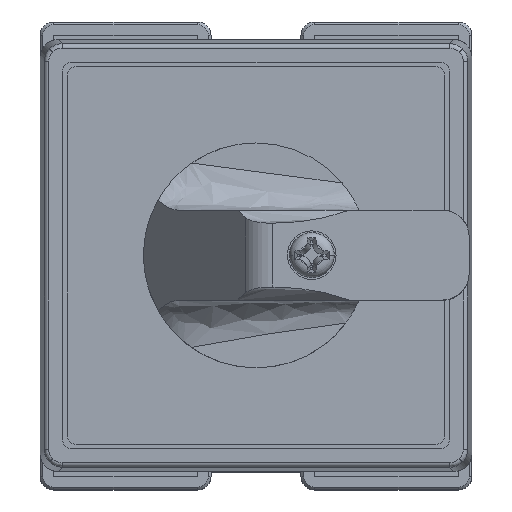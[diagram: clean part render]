
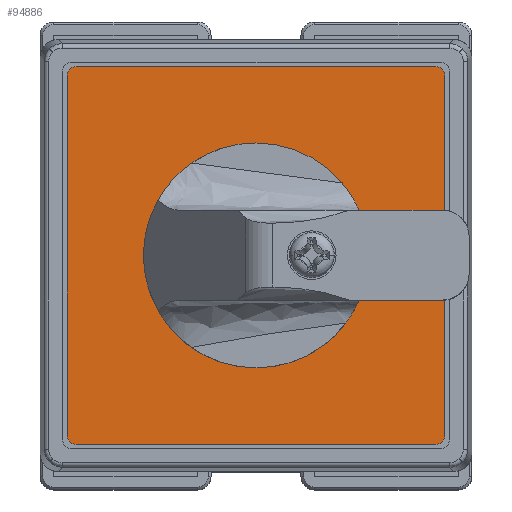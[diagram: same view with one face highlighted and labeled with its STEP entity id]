
A CAD part, top view. The second image highlights one B-rep face of the part: STEP entity #94886.
In plain terms, the highlighted planar face has unit normal (0, 0, 1).
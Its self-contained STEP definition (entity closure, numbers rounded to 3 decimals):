
#1016 = VECTOR ( 'NONE', #16464, 1000. ) ;
#1327 = CARTESIAN_POINT ( 'NONE',  ( -13.639, 15.889, -108.982 ) ) ;
#1666 = VERTEX_POINT ( 'NONE', #151547 ) ;
#4493 = DIRECTION ( 'NONE',  ( 0., -1., 0. ) ) ;
#6051 = CIRCLE ( 'NONE', #56187, 10.35 ) ;
#8085 = LINE ( 'NONE', #1327, #1016 ) ;
#10207 = VERTEX_POINT ( 'NONE', #172992 ) ;
#16464 = DIRECTION ( 'NONE',  ( -1., 0., 0. ) ) ;
#19048 = CARTESIAN_POINT ( 'NONE',  ( -13.639, -26.111, -108.982 ) ) ;
#20705 = CARTESIAN_POINT ( 'NONE',  ( 26.361, -26.111, -108.982 ) ) ;
#22418 = VECTOR ( 'NONE', #99753, 1000. ) ;
#22517 = VECTOR ( 'NONE', #94735, 1000. ) ;
#24826 = ORIENTED_EDGE ( 'NONE', *, *, #66518, .F. ) ;
#25053 = CIRCLE ( 'NONE', #60503, 1. ) ;
#26190 = DIRECTION ( 'NONE',  ( 0., 0., 1. ) ) ;
#32578 = ORIENTED_EDGE ( 'NONE', *, *, #65778, .F. ) ;
#32940 = EDGE_CURVE ( 'NONE', #175606, #43922, #25053, .T. ) ;
#34487 = DIRECTION ( 'NONE',  ( 0., 0., 1. ) ) ;
#37334 = AXIS2_PLACEMENT_3D ( 'NONE', #75123, #59558, #103265 ) ;
#37784 = DIRECTION ( 'NONE',  ( 0., 0., 1. ) ) ;
#39053 = CARTESIAN_POINT ( 'NONE',  ( 26.361, -25.111, -108.982 ) ) ;
#41524 = CARTESIAN_POINT ( 'NONE',  ( 6.361, 5.239, -108.982 ) ) ;
#43922 = VERTEX_POINT ( 'NONE', #171850 ) ;
#44085 = CIRCLE ( 'NONE', #122165, 1. ) ;
#48999 = VECTOR ( 'NONE', #108540, 1000. ) ;
#49535 = DIRECTION ( 'NONE',  ( 0., 0., 1. ) ) ;
#50370 = DIRECTION ( 'NONE',  ( 0., 0., 1. ) ) ;
#51212 = EDGE_CURVE ( 'NONE', #43922, #1666, #188518, .T. ) ;
#51636 = CIRCLE ( 'NONE', #127275, 1. ) ;
#56187 = AXIS2_PLACEMENT_3D ( 'NONE', #182250, #49535, #92456 ) ;
#59558 = DIRECTION ( 'NONE',  ( 0., 0., 1. ) ) ;
#60260 = CARTESIAN_POINT ( 'NONE',  ( 6.361, -15.461, -108.982 ) ) ;
#60503 = AXIS2_PLACEMENT_3D ( 'NONE', #39053, #37784, #158067 ) ;
#62512 = ORIENTED_EDGE ( 'NONE', *, *, #188222, .T. ) ;
#63052 = AXIS2_PLACEMENT_3D ( 'NONE', #132171, #163539, #162282 ) ;
#63888 = DIRECTION ( 'NONE',  ( 0., 1., 0. ) ) ;
#65778 = EDGE_CURVE ( 'NONE', #86372, #69013, #95393, .T. ) ;
#66499 = FACE_BOUND ( 'NONE', #97667, .T. ) ;
#66518 = EDGE_CURVE ( 'NONE', #69013, #86372, #6051, .T. ) ;
#69013 = VERTEX_POINT ( 'NONE', #60260 ) ;
#73846 = CARTESIAN_POINT ( 'NONE',  ( 26.361, 15.889, -108.982 ) ) ;
#75123 = CARTESIAN_POINT ( 'NONE',  ( 6.361, -5.111, -108.982 ) ) ;
#77194 = CIRCLE ( 'NONE', #124325, 1. ) ;
#84923 = CARTESIAN_POINT ( 'NONE',  ( 26.361, 14.889, -108.982 ) ) ;
#86372 = VERTEX_POINT ( 'NONE', #41524 ) ;
#86551 = ORIENTED_EDGE ( 'NONE', *, *, #144331, .T. ) ;
#92456 = DIRECTION ( 'NONE',  ( 0., 1., 0. ) ) ;
#92610 = EDGE_CURVE ( 'NONE', #10207, #96925, #77194, .T. ) ;
#94735 = DIRECTION ( 'NONE',  ( 0., -1., 0. ) ) ;
#94886 = ADVANCED_FACE ( 'NONE', ( #129665, #66499 ), #147944, .T. ) ;
#95393 = CIRCLE ( 'NONE', #37334, 10.35 ) ;
#96925 = VERTEX_POINT ( 'NONE', #169461 ) ;
#97667 = EDGE_LOOP ( 'NONE', ( #24826, #32578 ) ) ;
#99753 = DIRECTION ( 'NONE',  ( 0., 1., 0. ) ) ;
#101921 = DIRECTION ( 'NONE',  ( 0., -1., 0. ) ) ;
#103265 = DIRECTION ( 'NONE',  ( 0., 1., 0. ) ) ;
#104949 = LINE ( 'NONE', #19048, #48999 ) ;
#108540 = DIRECTION ( 'NONE',  ( 1., 0., 0. ) ) ;
#113683 = LINE ( 'NONE', #187049, #22517 ) ;
#121199 = CARTESIAN_POINT ( 'NONE',  ( -13.639, -26.111, -108.982 ) ) ;
#122165 = AXIS2_PLACEMENT_3D ( 'NONE', #84923, #26190, #101921 ) ;
#124325 = AXIS2_PLACEMENT_3D ( 'NONE', #124666, #34487, #63888 ) ;
#124666 = CARTESIAN_POINT ( 'NONE',  ( -13.639, 14.889, -108.982 ) ) ;
#127275 = AXIS2_PLACEMENT_3D ( 'NONE', #153678, #50370, #4493 ) ;
#129665 = FACE_OUTER_BOUND ( 'NONE', #142722, .T. ) ;
#131310 = VERTEX_POINT ( 'NONE', #73846 ) ;
#132171 = CARTESIAN_POINT ( 'NONE',  ( -13.639, 14.889, -108.982 ) ) ;
#138115 = ORIENTED_EDGE ( 'NONE', *, *, #191471, .T. ) ;
#142722 = EDGE_LOOP ( 'NONE', ( #162760, #180956, #86551, #184768, #164549, #145817, #138115, #62512 ) ) ;
#143553 = CARTESIAN_POINT ( 'NONE',  ( -14.639, -25.111, -108.982 ) ) ;
#144331 = EDGE_CURVE ( 'NONE', #192693, #156551, #51636, .T. ) ;
#145817 = ORIENTED_EDGE ( 'NONE', *, *, #51212, .T. ) ;
#147944 = PLANE ( 'NONE',  #63052 ) ;
#151547 = CARTESIAN_POINT ( 'NONE',  ( 27.361, 14.889, -108.982 ) ) ;
#153678 = CARTESIAN_POINT ( 'NONE',  ( -13.639, -25.111, -108.982 ) ) ;
#156551 = VERTEX_POINT ( 'NONE', #121199 ) ;
#158067 = DIRECTION ( 'NONE',  ( 0., -1., 0. ) ) ;
#160359 = EDGE_CURVE ( 'NONE', #96925, #192693, #113683, .T. ) ;
#162282 = DIRECTION ( 'NONE',  ( 0., 1., 0. ) ) ;
#162760 = ORIENTED_EDGE ( 'NONE', *, *, #92610, .T. ) ;
#163539 = DIRECTION ( 'NONE',  ( 0., 0., 1. ) ) ;
#164549 = ORIENTED_EDGE ( 'NONE', *, *, #32940, .T. ) ;
#166549 = EDGE_CURVE ( 'NONE', #156551, #175606, #104949, .T. ) ;
#169461 = CARTESIAN_POINT ( 'NONE',  ( -14.639, 14.889, -108.982 ) ) ;
#171850 = CARTESIAN_POINT ( 'NONE',  ( 27.361, -25.111, -108.982 ) ) ;
#172992 = CARTESIAN_POINT ( 'NONE',  ( -13.639, 15.889, -108.982 ) ) ;
#175081 = CARTESIAN_POINT ( 'NONE',  ( 27.361, -25.111, -108.982 ) ) ;
#175606 = VERTEX_POINT ( 'NONE', #20705 ) ;
#180956 = ORIENTED_EDGE ( 'NONE', *, *, #160359, .T. ) ;
#182250 = CARTESIAN_POINT ( 'NONE',  ( 6.361, -5.111, -108.982 ) ) ;
#184768 = ORIENTED_EDGE ( 'NONE', *, *, #166549, .T. ) ;
#187049 = CARTESIAN_POINT ( 'NONE',  ( -14.639, -25.111, -108.982 ) ) ;
#188222 = EDGE_CURVE ( 'NONE', #131310, #10207, #8085, .T. ) ;
#188518 = LINE ( 'NONE', #175081, #22418 ) ;
#191471 = EDGE_CURVE ( 'NONE', #1666, #131310, #44085, .T. ) ;
#192693 = VERTEX_POINT ( 'NONE', #143553 ) ;
